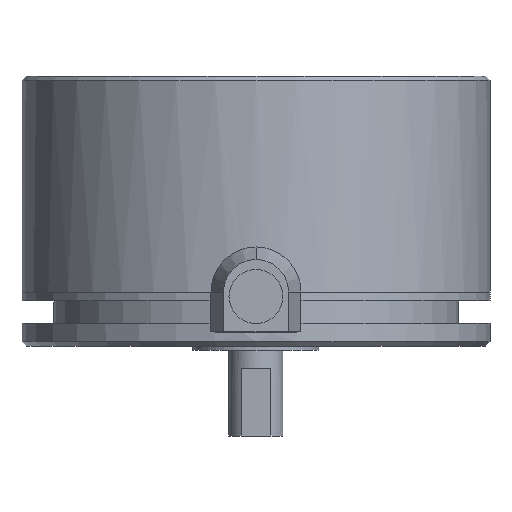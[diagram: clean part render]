
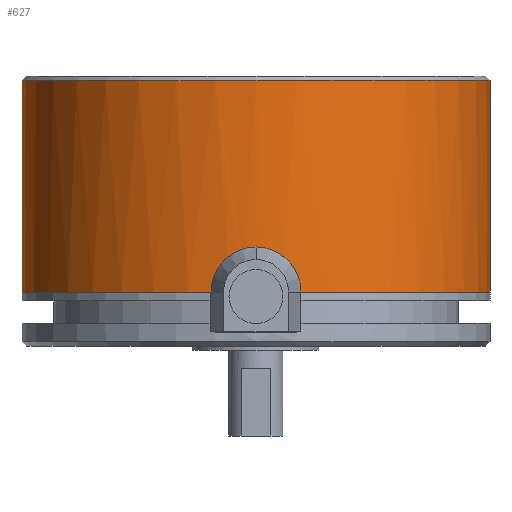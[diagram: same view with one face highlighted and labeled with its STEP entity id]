
A CAD part, front view. The second image highlights one B-rep face of the part: STEP entity #627.
In plain terms, the highlighted cylindrical face has radius 26 mm (diameter 52 mm), a partial arc.
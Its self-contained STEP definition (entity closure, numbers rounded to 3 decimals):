
#627=ADVANCED_FACE('',(#845),#846,.T.);
#845=FACE_OUTER_BOUND('',#1126,.T.);
#846=CYLINDRICAL_SURFACE('',#1127,26.0);
#1126=EDGE_LOOP('',(#1773,#1774,#1775,#1776,#1777,#1778,#1779));
#1127=AXIS2_PLACEMENT_3D('',#1780,#1781,#1782);
#1773=ORIENTED_EDGE('',*,*,#2336,.F.);
#1774=ORIENTED_EDGE('',*,*,#2337,.T.);
#1775=ORIENTED_EDGE('',*,*,#2333,.F.);
#1776=ORIENTED_EDGE('',*,*,#2338,.F.);
#1777=ORIENTED_EDGE('',*,*,#2339,.T.);
#1778=ORIENTED_EDGE('',*,*,#2340,.F.);
#1779=ORIENTED_EDGE('',*,*,#2341,.T.);
#1780=CARTESIAN_POINT('',(0.,0.0,30.0));
#1781=DIRECTION('',(0.0,-0.0,1.0));
#1782=DIRECTION('',(-1.0,0.0,0.0));
#2333=EDGE_CURVE('',#2709,#2712,#2713,.T.);
#2336=EDGE_CURVE('',#2717,#2718,#2719,.T.);
#2337=EDGE_CURVE('',#2717,#2712,#2720,.T.);
#2338=EDGE_CURVE('',#2721,#2709,#2722,.T.);
#2339=EDGE_CURVE('',#2721,#2723,#2724,.T.);
#2340=EDGE_CURVE('',#2725,#2723,#2726,.T.);
#2341=EDGE_CURVE('',#2725,#2718,#2727,.F.);
#2709=VERTEX_POINT('',#3233);
#2712=VERTEX_POINT('',#3237);
#2713=B_SPLINE_CURVE_WITH_KNOTS('',3,(#3238,#3239,#3240,#3241,#3242,#3243,#3244,#3245,#3246,#3247,#3248,#3249,#3250,#3251,#3252,#3253,#3254,#3255,#3256,#3257,#3258,#3259,#3260,#3261,#3262,#3263,#3264,#3265,#3266,#3267,#3268,#3269,#3270,#3271),.UNSPECIFIED.,.F.,.F.,(4,2,2,2,2,2,2,2,2,2,2,2,2,2,2,2,4),(0.0,0.001,0.001,0.002,0.003,0.003,0.004,0.005,0.005,0.006,0.007,0.008,0.008,0.009,0.01,0.01,0.011),.UNSPECIFIED.);
#2717=VERTEX_POINT('',#3309);
#2718=VERTEX_POINT('',#3310);
#2719=LINE('',#3311,#3312);
#2720=CIRCLE('',#3313,26.0);
#2721=VERTEX_POINT('',#3314);
#2722=B_SPLINE_CURVE_WITH_KNOTS('',3,(#3315,#3316,#3317,#3318,#3319,#3320,#3321,#3322,#3323,#3324,#3325,#3326,#3327,#3328,#3329,#3330,#3331,#3332,#3333,#3334,#3335,#3336,#3337,#3338,#3339,#3340,#3341,#3342,#3343,#3344,#3345,#3346,#3347,#3348),.UNSPECIFIED.,.F.,.F.,(4,2,2,2,2,2,2,2,2,2,2,2,2,2,2,2,4),(0.0,0.001,0.001,0.002,0.003,0.003,0.004,0.005,0.005,0.006,0.007,0.008,0.008,0.009,0.01,0.01,0.011),.UNSPECIFIED.);
#2723=VERTEX_POINT('',#3349);
#2724=CIRCLE('',#3350,26.0);
#2725=VERTEX_POINT('',#3351);
#2726=LINE('',#3352,#3353);
#2727=CIRCLE('',#3354,26.0);
#3233=CARTESIAN_POINT('',(0.,-26.,9.5));
#3237=CARTESIAN_POINT('',(-3.5,-25.763,6.0));
#3238=CARTESIAN_POINT('',(3.5,-25.763,6.0));
#3239=CARTESIAN_POINT('',(3.5,-25.763,6.231));
#3240=CARTESIAN_POINT('',(3.477,-25.766,6.459));
#3241=CARTESIAN_POINT('',(3.388,-25.778,6.907));
#3242=CARTESIAN_POINT('',(3.321,-25.787,7.129));
#3243=CARTESIAN_POINT('',(3.145,-25.809,7.553));
#3244=CARTESIAN_POINT('',(3.038,-25.822,7.754));
#3245=CARTESIAN_POINT('',(2.784,-25.851,8.134));
#3246=CARTESIAN_POINT('',(2.636,-25.867,8.314));
#3247=CARTESIAN_POINT('',(2.314,-25.897,8.636));
#3248=CARTESIAN_POINT('',(2.138,-25.913,8.781));
#3249=CARTESIAN_POINT('',(1.755,-25.941,9.037));
#3250=CARTESIAN_POINT('',(1.552,-25.954,9.145));
#3251=CARTESIAN_POINT('',(1.131,-25.976,9.32));
#3252=CARTESIAN_POINT('',(0.91,-25.985,9.387));
#3253=CARTESIAN_POINT('',(0.458,-25.997,9.478));
#3254=CARTESIAN_POINT('',(0.231,-26.,9.5));
#3255=CARTESIAN_POINT('',(-0.226,-26.,9.5));
#3256=CARTESIAN_POINT('',(-0.458,-25.997,9.477));
#3257=CARTESIAN_POINT('',(-0.907,-25.985,9.388));
#3258=CARTESIAN_POINT('',(-1.125,-25.976,9.322));
#3259=CARTESIAN_POINT('',(-1.549,-25.955,9.147));
#3260=CARTESIAN_POINT('',(-1.754,-25.941,9.037));
#3261=CARTESIAN_POINT('',(-2.133,-25.913,8.784));
#3262=CARTESIAN_POINT('',(-2.31,-25.898,8.64));
#3263=CARTESIAN_POINT('',(-2.637,-25.866,8.313));
#3264=CARTESIAN_POINT('',(-2.781,-25.851,8.137));
#3265=CARTESIAN_POINT('',(-3.035,-25.823,7.758));
#3266=CARTESIAN_POINT('',(-3.145,-25.809,7.554));
#3267=CARTESIAN_POINT('',(-3.32,-25.787,7.13));
#3268=CARTESIAN_POINT('',(-3.387,-25.779,6.912));
#3269=CARTESIAN_POINT('',(-3.477,-25.767,6.463));
#3270=CARTESIAN_POINT('',(-3.5,-25.763,6.231));
#3271=CARTESIAN_POINT('',(-3.5,-25.763,6.0));
#3309=CARTESIAN_POINT('',(-26.0,0.,6.0));
#3310=CARTESIAN_POINT('',(-26.0,0.,29.5));
#3311=CARTESIAN_POINT('',(-26.0,0.,17.75));
#3312=VECTOR('',#3960,1.0);
#3313=AXIS2_PLACEMENT_3D('',#3961,#3962,#3963);
#3314=CARTESIAN_POINT('',(3.5,-25.763,6.0));
#3315=CARTESIAN_POINT('',(3.5,-25.763,6.0));
#3316=CARTESIAN_POINT('',(3.5,-25.763,6.231));
#3317=CARTESIAN_POINT('',(3.477,-25.766,6.459));
#3318=CARTESIAN_POINT('',(3.388,-25.778,6.907));
#3319=CARTESIAN_POINT('',(3.321,-25.787,7.129));
#3320=CARTESIAN_POINT('',(3.145,-25.809,7.553));
#3321=CARTESIAN_POINT('',(3.038,-25.822,7.754));
#3322=CARTESIAN_POINT('',(2.784,-25.851,8.134));
#3323=CARTESIAN_POINT('',(2.636,-25.867,8.314));
#3324=CARTESIAN_POINT('',(2.314,-25.897,8.636));
#3325=CARTESIAN_POINT('',(2.138,-25.913,8.781));
#3326=CARTESIAN_POINT('',(1.755,-25.941,9.037));
#3327=CARTESIAN_POINT('',(1.552,-25.954,9.145));
#3328=CARTESIAN_POINT('',(1.131,-25.976,9.32));
#3329=CARTESIAN_POINT('',(0.91,-25.985,9.387));
#3330=CARTESIAN_POINT('',(0.458,-25.997,9.478));
#3331=CARTESIAN_POINT('',(0.231,-26.,9.5));
#3332=CARTESIAN_POINT('',(-0.226,-26.,9.5));
#3333=CARTESIAN_POINT('',(-0.458,-25.997,9.477));
#3334=CARTESIAN_POINT('',(-0.907,-25.985,9.388));
#3335=CARTESIAN_POINT('',(-1.125,-25.976,9.322));
#3336=CARTESIAN_POINT('',(-1.549,-25.955,9.147));
#3337=CARTESIAN_POINT('',(-1.754,-25.941,9.037));
#3338=CARTESIAN_POINT('',(-2.133,-25.913,8.784));
#3339=CARTESIAN_POINT('',(-2.31,-25.898,8.64));
#3340=CARTESIAN_POINT('',(-2.637,-25.866,8.313));
#3341=CARTESIAN_POINT('',(-2.781,-25.851,8.137));
#3342=CARTESIAN_POINT('',(-3.035,-25.823,7.758));
#3343=CARTESIAN_POINT('',(-3.145,-25.809,7.554));
#3344=CARTESIAN_POINT('',(-3.32,-25.787,7.13));
#3345=CARTESIAN_POINT('',(-3.387,-25.779,6.912));
#3346=CARTESIAN_POINT('',(-3.477,-25.767,6.463));
#3347=CARTESIAN_POINT('',(-3.5,-25.763,6.231));
#3348=CARTESIAN_POINT('',(-3.5,-25.763,6.0));
#3349=CARTESIAN_POINT('',(26.0,0.,6.0));
#3350=AXIS2_PLACEMENT_3D('',#3964,#3965,#3966);
#3351=CARTESIAN_POINT('',(26.0,0.0,29.5));
#3352=CARTESIAN_POINT('',(26.0,0.,17.75));
#3353=VECTOR('',#3967,1.0);
#3354=AXIS2_PLACEMENT_3D('',#3968,#3969,#3970);
#3960=DIRECTION('',(0.0,-0.0,1.0));
#3961=CARTESIAN_POINT('',(0.,0.0,6.0));
#3962=DIRECTION('',(0.0,0.0,1.0));
#3963=DIRECTION('',(1.0,0.0,0.0));
#3964=CARTESIAN_POINT('',(0.,0.0,6.0));
#3965=DIRECTION('',(0.0,0.0,1.0));
#3966=DIRECTION('',(1.0,0.0,0.0));
#3967=DIRECTION('',(0.0,-0.0,-1.0));
#3968=CARTESIAN_POINT('',(0.,0.0,29.5));
#3969=DIRECTION('',(0.0,0.0,1.0));
#3970=DIRECTION('',(1.0,0.0,0.0));
